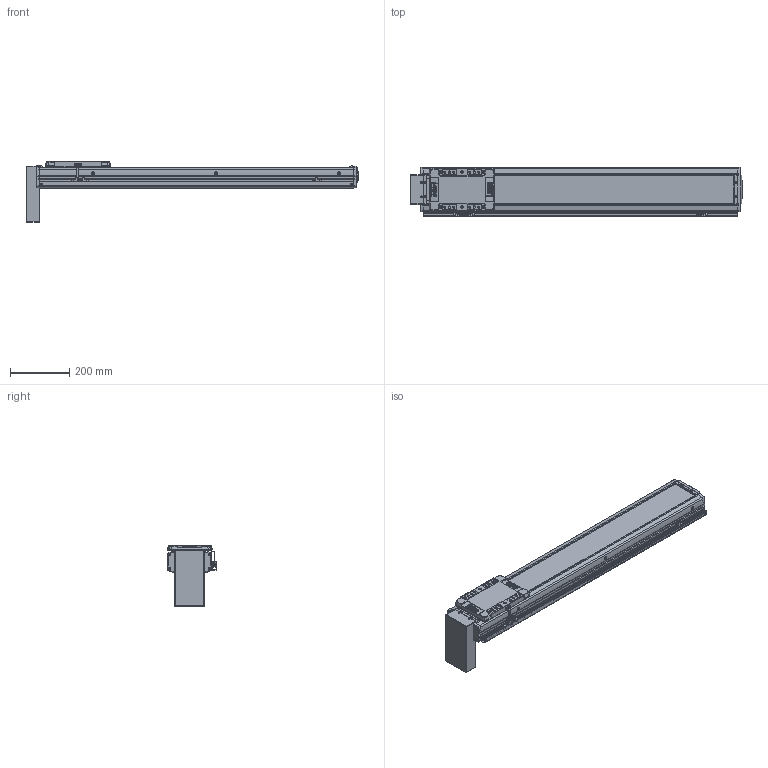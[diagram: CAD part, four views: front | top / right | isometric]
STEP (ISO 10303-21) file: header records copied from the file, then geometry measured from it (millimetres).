
FILE_DESCRIPTION(('STEP AP214'),'1');
FILE_NAME('Z:/Web/3D/SAN150/2013.04 (STP.)/SAN150ㅁㅁ-800PB+3SR.stp','2013-05-07T11:07:59',(' '),(' '),'Spatial InterOp 3D',' ',' ');
FILE_SCHEMA(('automotive_design'));
Length unit declared in the file: millimetre
Products named in the file (60): SLBL-SAN150; SLCV-SAN150; FHCS M4.0 x 8.0; BHCS M4.0 x 10.0; SFX-SAN150; RRCV-SAN150; FRBL-SAN150; Spacer; RN15; FRCV-SAN150; Screw 20; BASE-SAN150-000L ; SUS COVER; 스크루 : Round - M5.0 x 6.0; PB; 스크루 : Round - M3.0 x 6.0; M3.0 x 6.0; SRL-16x17-360L; SGD-SAN150; EE-SX674; SBK-SX674-352
Bounding box: 1120 x 166 x 205.4 mm (x, y, z)
Volume: 6839934.1 mm3; surface area: 1295739.7 mm2
Topology: 60 solids, 60 shells, 2722 faces, 6994 edges, 4491 vertices
Faces by surface type: plane 1420, cylinder 891, cone 294, sphere 84, bspline 21, torus 12
Entity records: 107892 total; most frequent: CARTESIAN_POINT 17261, DIRECTION 14824, ORIENTED_EDGE 13748, EDGE_CURVE 6874, AXIS2_PLACEMENT_3D 5289, VERTEX_POINT 4491, LINE 4246, VECTOR 4246
